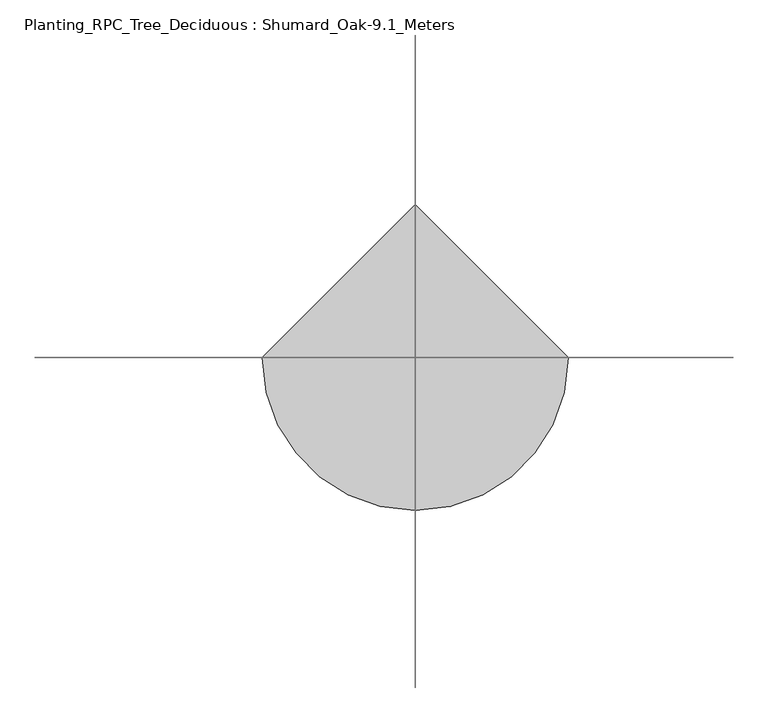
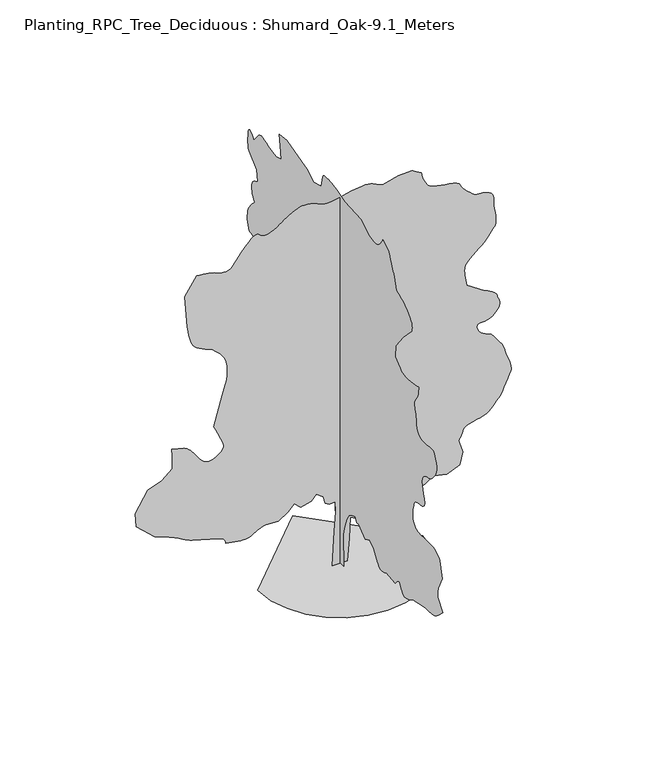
"""IFC4 building model written with IfcOpenShell, lengths in millimetres: geographic element geometry, Planting_RPC_Tree_Deciduous : Shumard_Oak-9.1_Meters."""

from ifc_helpers import new_model, si_unit, origin, place, context, project, spatial, triangles, source, transform, mapped, element, save


def planting_rpc_tree_deciduous_shumard_oak_9_1_meters_5c09a096(model_context):
    return source(origin(), model_context, "Body", "Tessellation", [
        triangles([(-0.0016876, 163.832478, 0.0085608), (-0.0016876, -150.8808976, 0.0085608), (-0.0016876, -123.5141451, 779.9515205), (-0.0016876, -178.2471505, 1012.5653744), (-0.0016876, -260.3461545, 1231.4963425), (-0.0016876, -356.128771, 1382.0105564), (-0.0016876, -465.5942914, 1450.4274559), (-0.0016876, -602.4255469, 1505.1588535), (-0.0016876, -657.1595243, 1382.0105564), (-0.0016876, -752.9421953, 1409.3763279), (-0.0016876, -862.4076794, 1299.9107712), (-0.0016876, -1012.9218206, 1204.1281002), (-0.0016876, -1190.8042042, 1286.2278854), (-0.0016876, -1355.0011585, 1176.7624014), (-0.0016876, -1464.4667152, 985.1971321), (-0.0016876, -1490.95536, 947.379019), (-0.0016876, -1518.0429508, 911.3556364), (-0.0016876, -1546.3262535, 878.9241858), (-0.0016876, -1576.4068302, 851.8769268), (-0.0016876, -1608.8788307, 832.0111336), (-0.0016876, -1644.3435265, 821.1189205), (-0.0016876, -1683.3976833, 821.0001051), (-0.0016876, -1720.8568794, 827.6608177), (-0.0016876, -1751.8549873, 835.7598146), (-0.0016876, -1777.4640347, 845.0544508), (-0.0016876, -1798.7681122, 855.307168), (-0.0016876, -1816.8392475, 866.2777193), (-0.0016876, -1832.7565899, 877.7285465), (-0.0016876, -1847.5972538, 889.4144611), (-0.0016876, -2203.3595501, 848.3658766), (-0.0016876, -2238.4248516, 888.8583904), (-0.0016876, -2272.772319, 925.9965305), (-0.0016876, -2305.6839729, 956.4360243), (-0.0016876, -2336.4419792, 976.8200272), (-0.0016876, -2364.326033, 983.8017958), (-0.0016876, -2388.6204803, 974.0293545), (-0.0016876, -2408.6076324, 944.1484749), (-0.0016876, -2428.6731228, 901.1838009), (-0.0016876, -2453.5264023, 856.783386), (-0.0016876, -2482.9269333, 814.5366188), (-0.0016876, -2516.6373756, 778.0354311), (-0.0016876, -2554.4225693, 750.8694294), (-0.0016876, -2596.0299133, 736.6279295), (-0.0016876, -2641.2265732, 738.9003925), (-0.0016876, -2686.5496788, 752.2242886), (-0.0016876, -2728.9909836, 768.4198116), (-0.0016876, -2769.0309814, 787.0116274), (-0.0016876, -2807.1751648, 807.5169165), (-0.0016876, -2843.8787384, 829.4580917), (-0.0016876, -2879.6216148, 852.3547319), (-0.0016876, -2914.8839973, 875.7316481), (-0.0016876, -3407.4725349, 971.5142464), (-0.0016876, -3468.9228539, 971.6356052), (-0.0016876, -3529.5136322, 972.4722548), (-0.0016876, -3588.4361984, 974.7472612), (-0.0016876, -3644.831012, 979.1734446), (-0.0016876, -3697.8891106, 986.4761965), (-0.0016876, -3746.7762428, 997.3658661), (-0.0016876, -3790.6081604, 1012.5653744), (-0.0016876, -3832.8471519, 1034.5444107), (-0.0016876, -3877.2604294, 1064.4252903), (-0.0016876, -3923.4427849, 1100.8885443), (-0.0016876, -3971.0916206, 1142.6146311), (-0.0016876, -4019.8017288, 1188.2915668), (-0.0016876, -4069.2199333, 1236.6025715), (-0.0016876, -4119.0171844, 1286.2278854), (-0.0016876, -3927.4367271, 1505.1588535), (-0.0016876, -3921.7492836, 1546.169577), (-0.0016876, -3916.9969574, 1586.9401989), (-0.0016876, -3914.1660255, 1627.2304722), (-0.0016876, -3914.1913147, 1666.8053822), (-0.0016876, -3918.0588112, 1705.4197403), (-0.0016876, -3926.7289215, 1742.8410027), (-0.0016876, -3941.1373444, 1778.8239807), (-0.0016876, -4091.6412392, 2093.5376198), (-0.0016876, -3995.8636551, 2476.6656876), (-0.0016876, -3988.3562645, 2487.2368446), (-0.0016876, -3966.0105354, 2514.3244354), (-0.0016876, -3929.0799408, 2550.9846977), (-0.0016876, -3877.7659218, 2590.2918915), (-0.0016876, -3812.3469498, 2625.276384), (-0.0016876, -3733.0506271, 2649.0121445), (-0.0016876, -3640.1039749, 2654.5478531), (-0.0016876, -3536.5408195, 2650.2507317), (-0.0016876, -3429.8685516, 2648.5572304), (-0.0016876, -3327.0132019, 2648.8098312), (-0.0016876, -3234.9513794, 2650.2507317), (-0.0016876, -3160.5841164, 2652.1465462), (-0.0016876, -3110.8880219, 2653.8400475), (-0.0016876, -3092.7638374, 2654.5478531), (-0.0016876, -3082.1470436, 2661.7773537), (-0.0016876, -3054.7966782, 2682.1514008), (-0.0016876, -3017.3603004, 2713.7991783), (-0.0016876, -2976.5872078, 2754.7490044), (-0.0016876, -2939.1758286, 2803.1562241), (-0.0016876, -2911.8254631, 2857.0482834), (-0.0016876, -2901.2086693, 2914.5302399), (-0.0016876, -2903.2056404, 2971.9613274), (-0.0016876, -2908.7919273, 3027.268998), (-0.0016876, -2917.3611717, 3080.7570122), (-0.0016876, -2928.331723, 3132.8291245), (-0.0016876, -2941.0969322, 3183.8143845), (-0.0016876, -2955.050441, 3234.0668404), (-0.0016876, -2969.6103081, 3283.9652481), (-0.0016876, -2981.5921349, 3298.5756935), (-0.0016876, -2994.9892822, 3312.8070923), (-0.0016876, -3011.2682304, 3326.3306854), (-0.0016876, -3031.8443001, 3338.7927155), (-0.0016876, -3058.1839714, 3349.7885559), (-0.0016876, -3091.7022743, 3359.0150276), (-0.0016876, -3133.8151108, 3366.0675041), (-0.0016876, -3184.7497925, 3370.3899147), (-0.0016876, -3239.7795731, 3375.4201309), (-0.0016876, -3292.8629608, 3386.8964653), (-0.0016876, -3338.0596207, 3410.5816475), (-0.0016876, -3369.3789299, 3452.2395699), (-0.0016876, -3380.8296844, 3517.5826744), (-0.0016876, -3366.4212616, 3612.3742722), (-0.0016876, -3336.9474792, 3719.5267433), (-0.0016876, -3309.8750038, 3817.8070816), (-0.0016876, -3289.2480652, 3906.78479), (-0.0016876, -3279.1370544, 3985.9296684), (-0.0016876, -3283.6617783, 4054.7862213), (-0.0016876, -3306.841468, 4112.8745361), (-0.0016876, -3352.7459335, 4159.6891205), (-0.0016876, -3409.0395905, 4192.4996178), (-0.0016876, -3461.2637283, 4212.5954842), (-0.0016876, -3510.3531738, 4225.7653198), (-0.0016876, -3557.3192024, 4237.7218575), (-0.0016876, -3603.071933, 4254.2534065), (-0.0016876, -3648.5973518, 4281.0479919), (-0.0016876, -3694.8305763, 4323.8936325), (-0.0016876, -3741.9483398, 4378.3926315), (-0.0016876, -3786.8921082, 4436.4809464), (-0.0016876, -3825.8705429, 4498.38647), (-0.0016876, -3855.0411461, 4564.3615128), (-0.0016876, -3870.5617104, 4634.6589661), (-0.0016876, -3868.5900284, 4709.5064323), (-0.0016876, -3845.3344711, 4789.131514), (-0.0016876, -3817.2507202, 4864.434185), (-0.0016876, -3798.2672859, 4925.8842133), (-0.0016876, -3780.7244614, 4972.9516891), (-0.0016876, -3756.9381226, 5005.1811172), (-0.0016876, -3719.2741425, 5022.091713), (-0.0016876, -3660.0733955, 5023.2038544), (-0.0016876, -3571.677047, 5008.0623367), (-0.0016876, -3466.799437, 4991.303476), (-0.0016876, -3365.9916367, 4987.9414719), (-0.0016876, -3273.3231651, 4998.0019043), (-0.0016876, -3192.8638321, 5021.4597748), (-0.0016876, -3128.6584488, 5058.3150833), (-0.0016876, -3084.8265312, 5108.592247), (-0.0016876, -3065.3878922, 5172.2418503), (-0.0016876, -3058.7400421, 5240.239444), (-0.0016876, -3050.651001, 5303.8884659), (-0.0016876, -3041.3489525, 5363.9737518), (-0.0016876, -3031.0859161, 5421.1778183), (-0.0016876, -3020.1153648, 5476.2325974), (-0.0016876, -3008.6646103, 5529.8467667), (-0.0016876, -2996.9862534, 5582.753421), (-0.0016876, -2985.6113663, 5620.8976044), (-0.0016876, -2976.4101837, 5659.1429443), (-0.0016876, -2971.4811241, 5697.6411758), (-0.0016876, -2973.0481796, 5736.4928741), (-0.0016876, -2983.2097687, 5775.8253571), (-0.0016876, -3004.1651756, 5815.7641983), (-0.0016876, -3038.0375267, 5856.4105545), (-0.0016876, -3074.2606064, 5906.2836731), (-0.0016876, -3101.6109718, 5968.8211349), (-0.0016876, -3121.3277916, 6036.6414139), (-0.0016876, -3134.573204, 6102.3129868), (-0.0016876, -3142.5610886, 6158.4049118), (-0.0016876, -3146.4538742, 6197.4839218), (-0.0016876, -3147.4904388, 6212.1702347), (-0.0016876, -3127.318705, 6207.6710907), (-0.0016876, -3073.1481743, 6196.2200455), (-0.0016876, -2994.5596573, 6180.9523727), (-0.0016876, -2901.1328018, 6164.9516052), (-0.0016876, -2802.4231293, 6151.3518539), (-0.0016876, -2708.0358673, 6143.2378143), (-0.0016876, -2627.525956, 6143.7685959), (-0.0016876, -2559.5539421, 6155.5986877), (-0.0016876, -2495.8918396, 6178.2223068), (-0.0016876, -2435.8141113, 6209.8197968), (-0.0016876, -2378.6078648, 6248.5959183), (-0.0016876, -2323.5554111, 6292.7560135), (-0.0016876, -2269.9412418, 6340.5060059), (-0.0016876, -2217.0422905, 6390.0506561), (-0.0016876, -2230.7251762, 6677.4081161), (-0.0016876, -2531.7483719, 7060.5440323), (-0.0016876, -2873.832724, 7416.3037125), (-0.0016876, -2879.1916992, 7460.4132294), (-0.0016876, -2881.4162727, 7505.3825775), (-0.0016876, -2877.4223305, 7552.0204285), (-0.0016876, -2864.1007599, 7601.1604523), (-0.0016876, -2838.3427391, 7653.6624802), (-0.0016876, -2797.0135757, 7710.3351837), (-0.0016876, -2737.0041573, 7772.0633926), (-0.0016876, -2666.6308365, 7831.3905853), (-0.0016876, -2596.257225, 7881.3648605), (-0.0016876, -2525.8914619, 7923.5785629), (-0.0016876, -2455.5207573, 7959.5490417), (-0.0016876, -2385.149762, 7990.8680603), (-0.0016876, -2314.778912, 8019.0779663), (-0.0016876, -2244.408062, 8045.7211075), (-0.0016876, -2223.8648392, 8115.8918243), (-0.0016876, -2203.2002575, 8184.8754044), (-0.0016876, -2182.2954288, 8251.4568054), (-0.0016876, -2161.0317558, 8314.4488907), (-0.0016876, -2139.2903503, 8372.6383621), (-0.0016876, -2116.9523243, 8424.8625), (-0.0016876, -2093.8939934, 8469.9074249), (-0.0016876, -2068.3230251, 8519.0224503), (-0.0016876, -2040.1180607, 8579.6135193), (-0.0016876, -2011.6754654, 8644.7543106), (-0.0016876, -1985.3865177, 8707.4935043), (-0.0016876, -1963.6451122, 8760.9309402), (-0.0016876, -1948.8448528, 8798.0641388), (-0.0016876, -1943.3773087, 8811.991777), (-0.0016876, -1710.7634548, 8948.8206345), (-0.0016876, -1698.8374386, 8925.2366089), (-0.0016876, -1685.7130943, 8900.944487), (-0.0016876, -1670.1925301, 8875.2117554), (-0.0016876, -1651.0851208, 8847.3303177), (-0.0016876, -1627.1900677, 8816.5670792), (-0.0016876, -1597.3090427, 8782.2145248), (-0.0016876, -1560.2493862, 8743.5651398), (-0.0016876, -1515.6087971, 8710.0974152), (-0.0016876, -1464.5071198, 8690.2794388), (-0.0016876, -1408.0188526, 8681.811351), (-0.0016876, -1347.2231449, 8682.4432892), (-0.0016876, -1283.194495, 8689.9003922), (-0.0016876, -1217.0121975, 8701.9072174), (-0.0016876, -1149.7530762, 8716.1894852), (-0.0016876, -848.7223228, 8921.4449799), (-0.0016876, -191.9302724, 8962.4959625), (-0.0016876, -107.0787747, 8985.8276779), (-0.0016876, -23.3040577, 9008.451297), (-0.0016876, 58.316385, 9029.633725), (-0.0016876, 136.7053639, 9048.6680283), (-0.0016876, 210.7859892, 9064.8205307), (-0.0016876, 279.4814509, 9077.3837173), (-0.0016876, 341.7128632, 9085.6494919), (-0.0016876, 403.0696558, 9091.9438751), (-0.0016876, 467.2954957, 9097.530162), (-0.0016876, 530.565798, 9100.0073364), (-0.0016876, 589.0485291, 9096.9738007), (-0.0016876, 638.9140537, 9086.0541183), (-0.0016876, 676.3327726, 9064.8205307), (-0.0016876, 697.4776302, 9030.9231812), (-0.0016876, 765.8919863, 8757.2404678), (-0.0016876, 1066.9227396, 8675.163501), (-0.0016876, 1340.5877941, 8839.3424332), (-0.0016876, 1682.6672047, 8921.4449799), (-0.0016876, 2134.2120266, 9058.2738373), (-0.0016876, 2435.2427799, 9017.2222733), (-0.0016876, 2407.8745377, 8757.2404678), (-0.0016876, 2353.14314, 8456.2320969), (-0.0016876, 2572.0665504, 8387.8054596), (-0.0016876, 2790.9973732, 8428.8564423), (-0.0016876, 2875.6529617, 8460.6556641), (-0.0016876, 2958.0331078, 8489.7004028), (-0.0016876, 3035.8635315, 8513.2338501), (-0.0016876, 3106.8687904, 8528.5015228), (-0.0016876, 3168.7996033, 8532.7733551), (-0.0016876, 3219.3296585, 8523.2692841), (-0.0016876, 3256.2352547, 8497.2580811), (-0.0016876, 3461.49104, 8250.9766022), (-0.0016876, 3508.1286003, 8305.5005997), (-0.0016876, 3553.0726593, 8352.972702), (-0.0016876, 3594.6797127, 8386.33927), (-0.0016876, 3631.2568405, 8398.4978302), (-0.0016876, 3661.1352493, 8382.4209045), (-0.0016876, 3682.6464363, 8331.0315994), (-0.0016876, 3694.0974815, 8237.2762756), (-0.0016876, 3697.5603516, 8133.1570496), (-0.0016876, 3696.7263908, 8052.7480042), (-0.0016876, 3692.302533, 7992.0563599), (-0.0016876, 3684.9974556, 7947.1881683), (-0.0016876, 3675.5433815, 7914.1500687), (-0.0016876, 3664.6486977, 7889.0236954), (-0.0016876, 3653.0462082, 7867.8412674), (-0.0016876, 3338.3378014, 7607.8588806), (-0.0016876, 3310.9618561, 7320.5264191), (-0.0016876, 3354.7176155, 7302.679834), (-0.0016876, 3397.1845001, 7283.418219), (-0.0016876, 3436.9968956, 7261.2748032), (-0.0016876, 3472.8409286, 7234.8345566), (-0.0016876, 3503.4521416, 7202.6307083), (-0.0016876, 3527.4660828, 7163.2476471), (-0.0016876, 3543.5680069, 7115.270343), (-0.0016876, 3549.7359444, 7062.4904251), (-0.0016876, 3545.8178696, 7009.7105072), (-0.0016876, 3533.5328636, 6956.9300079), (-0.0016876, 3514.5491386, 6904.15009), (-0.0016876, 3490.5351974, 6851.3701721), (-0.0016876, 3463.1595428, 6798.5902542), (-0.0016876, 3434.1153854, 6745.8103363), (-0.0016876, 3477.9217232, 6701.8269745), (-0.0016876, 3520.6412086, 6657.6918777), (-0.0016876, 3561.2119881, 6613.3294693), (-0.0016876, 3598.5472092, 6568.6130127), (-0.0016876, 3631.5853088, 6523.4157715), (-0.0016876, 3659.2394348, 6477.6127533), (-0.0016876, 3680.4221535, 6431.1016388), (-0.0016876, 3695.6139587, 6385.7782425), (-0.0016876, 3706.5089333, 6343.3372284), (-0.0016876, 3713.8140106, 6303.2972305), (-0.0016876, 3718.2375778, 6265.1530472), (-0.0016876, 3720.5127296, 6228.4494736), (-0.0016876, 3721.346981, 6192.7068878), (-0.0016876, 3721.4731361, 6157.443924), (-0.0016876, 3639.3708801, 5924.8377731), (-0.0016876, 3601.2772751, 5918.7207047), (-0.0016876, 3563.2848267, 5911.1880249), (-0.0016876, 3525.5449791, 5900.7735443), (-0.0016876, 3488.1591797, 5886.0616516), (-0.0016876, 3451.2788727, 5865.5867386), (-0.0016876, 3414.9546364, 5837.9326126), (-0.0016876, 3379.388784, 5801.6842438), (-0.0016876, 3346.9826225, 5758.63629), (-0.0016876, 3319.6319664, 5711.9990204), (-0.0016876, 3296.4522766, 5662.378212), (-0.0016876, 3276.6093018, 5610.3569687), (-0.0016876, 3259.2940796, 5556.5404861), (-0.0016876, 3243.6723587, 5501.535704), (-0.0016876, 3228.8596001, 5445.9245636), (-0.0016876, 3196.8324852, 5401.9162033), (-0.0016876, 3166.1201157, 5357.806105), (-0.0016876, 3138.0363647, 5313.4436966), (-0.0016876, 3113.8959778, 5268.7022415), (-0.0016876, 3095.0389893, 5223.5050003), (-0.0016876, 3082.7286942, 5177.7269806), (-0.0016876, 3078.3554146, 5131.2158661), (-0.0016876, 3092.0307426, 4761.7558594), (-0.0016876, 3124.0578575, 4758.5203011), (-0.0016876, 3154.7955162, 4753.4897942), (-0.0016876, 3182.8792671, 4744.8955513), (-0.0016876, 3206.9943649, 4730.8914642), (-0.0016876, 3225.8766426, 4709.7087456), (-0.0016876, 3238.1616486, 4679.5271576), (-0.0016876, 3242.5602173, 4638.60233), (-0.0016876, 3241.3466286, 4591.3075424), (-0.0016876, 3238.0102043, 4543.2543709), (-0.0016876, 3232.8535423, 4494.6451286), (-0.0016876, 3226.2812691, 4445.530394), (-0.0016876, 3218.6221436, 4396.0619019), (-0.0016876, 3210.2299232, 4346.3658073), (-0.0016876, 3201.5089439, 4296.5179779), (-0.0016876, 3187.8083267, 4022.8605537), (-0.0016876, 3447.7904228, 4036.5608803), (-0.0016876, 3735.1484642, 4091.2874817), (-0.0016876, 3796.2956039, 4070.5849663), (-0.0016876, 3854.9399895, 4048.7955986), (-0.0016876, 3908.5541588, 4024.8575249), (-0.0016876, 3954.6356483, 3997.6838928), (-0.0016876, 3990.6564148, 3966.2128487), (-0.0016876, 4014.1142853, 3929.3578308), (-0.0016876, 4022.4812164, 3886.0316963), (-0.0016876, 4020.1051987, 3831.1536507), (-0.0016876, 4013.4064796, 3761.8924713), (-0.0016876, 4003.0931557, 3680.6747543), (-0.0016876, 3989.9486092, 3589.8770988), (-0.0016876, 3974.6303581, 3491.9002304), (-0.0016876, 3957.8712067, 3389.1207481), (-0.0016876, 3940.4042496, 3283.9652481), (-0.0016876, 3817.2507202, 2955.5812225), (-0.0016876, 3749.986512, 2917.841375), (-0.0016876, 3683.8094467, 2882.3766792), (-0.0016876, 3619.7807968, 2851.4619965), (-0.0016876, 3558.9877052, 2827.3721878), (-0.0016876, 3502.4917351, 2812.3571159), (-0.0016876, 3451.3800293, 2808.742511), (-0.0016876, 3406.7394402, 2818.7526558), (-0.0016876, 3023.6291039, 2982.9318787), (-0.0016876, 2640.4934784, 2859.8036385), (-0.0016876, 2366.8258804, 2668.2231812), (-0.0016876, 2093.1635147, 2257.7345741), (-0.0016876, 2066.6748699, 2216.9235477), (-0.0016876, 2039.5871338, 2177.5508057), (-0.0016876, 2011.3013603, 2141.0496906), (-0.0016876, 1981.2232544, 2108.8558708), (-0.0016876, 1948.7513992, 2082.4077759), (-0.0016876, 1913.2867035, 2063.1384579), (-0.0016876, 1874.2324013, 2052.4864918), (-0.0016876, 1835.2565826, 2048.9374352), (-0.0016876, 1798.6745132, 2049.2154705), (-0.0016876, 1761.8523422, 2052.1275021), (-0.0016876, 1722.1611603, 2056.4752018), (-0.0016876, 1676.9620296, 2061.0631485), (-0.0016876, 1623.6258957, 2064.6930141), (-0.0016876, 1559.5187622, 2066.1692322), (-0.0016876, 1490.7430183, 2060.9848103), (-0.0016876, 1424.841227, 2046.4627316), (-0.0016876, 1361.330714, 2024.1626392), (-0.0016876, 1299.7363632, 1995.6392349), (-0.0016876, 1239.5776806, 1962.4494003), (-0.0016876, 1180.377079, 1926.1479824), (-0.0016876, 1121.6567533, 1888.2893921), (-0.0016876, 1039.5570408, 1655.6755383), (-0.0016876, 806.9431143, 1395.6934422), (-0.0016876, 774.8277054, 1360.9060307), (-0.0016876, 737.6895653, 1326.8392147), (-0.0016876, 696.3603292, 1293.368874), (-0.0016876, 651.6793356, 1260.3788818), (-0.0016876, 604.4856683, 1227.745118), (-0.0016876, 555.6186293, 1195.3542171), (-0.0016876, 505.912361, 1163.0795156), (-0.0016876, 423.8126121, 1450.4274559), (-0.0016876, 286.9813747, 1641.9901817), (-0.0016876, 232.2486145, 1518.8417393), (-0.0016876, 191.1987401, 1327.2790134), (-0.0016876, 177.5158725, 985.1971321), (-0.0016876, 150.1493652, 506.2865024), (169.54274, 0.0004339, 0.0216695), (-186.21952, 0.0004339, 0.0216695), (-131.4872685, 0.0003851, 821.0127497), (-104.1207703, 0.0003564, 1299.9234158), (-117.8038922, 0.0003417, 1546.2226261), (-254.6358926, 0.0003425, 1532.5397404), (-350.4185454, 0.0003394, 1587.2712833), (-391.46713, 0.0003287, 1765.1537395), (-555.6666641, 0.0003221, 1874.6191509), (-665.1321482, 0.0003294, 1751.4708538), (-911.4288877, 0.0003336, 1683.0539543), (-1061.9455725, 0.0003255, 1819.8851372), (-1212.4597137, 0.0003344, 1669.3710686), (-1431.3906818, 0.0003425, 1532.5397404), (-1759.7872066, 0.0003417, 1546.2226261), (-1923.984161, 0.0003459, 1477.8057266), (-1959.2517757, 0.0003475, 1451.5952625), (-1994.9946522, 0.000349, 1426.464093), (-2031.6954643, 0.0003503, 1403.4865711), (-2069.8345608, 0.0003514, 1383.7395206), (-2109.8872032, 0.0003524, 1368.2999107), (-2152.3311241, 0.000353, 1358.2468906), (-2197.6492882, 0.0003532, 1354.6574295), (-2248.1541996, 0.0003532, 1356.2523903), (-2305.1203445, 0.000353, 1360.7215942), (-2367.4704632, 0.0003524, 1367.5819313), (-2434.1331093, 0.0003519, 1376.3584305), (-2504.0236107, 0.0003514, 1386.5705978), (-2576.0604927, 0.0003506, 1397.7408463), (-2649.1891685, 0.0003501, 1409.3914433), (-2652.5761711, 0.0003483, 1438.632827), (-2658.7188194, 0.0003464, 1467.3938622), (-2670.3718872, 0.0003449, 1495.1994324), (-2690.2907295, 0.0003433, 1521.5691891), (-2721.2054123, 0.0003417, 1546.022929), (-2765.8712906, 0.0003404, 1568.0829197), (-2827.0690086, 0.0003394, 1587.2712833), (-3429.1354568, 0.0003287, 1765.1537395), (-3478.2754807, 0.0003279, 1780.7500259), (-3530.7775085, 0.0003266, 1802.8124874), (-3584.9477486, 0.000325, 1829.4200203), (-3639.1182793, 0.0003232, 1858.6612587), (-3691.6203072, 0.0003213, 1888.6206219), (-3740.7856201, 0.0003198, 1917.3841278), (-3784.895137, 0.0003182, 1943.0335796), (-3832.3416595, 0.0003166, 1967.6870167), (-3891.2642258, 0.0003151, 1994.4965721), (-3959.741732, 0.0003132, 2023.09846), (-4035.903653, 0.0003117, 2053.1386322), (-4117.8038864, 0.0003098, 2084.2556282), (-4203.5207474, 0.0003078, 2116.0878422), (-4291.1842918, 0.0003059, 2148.281662), (-4715.3456108, 0.0002822, 2545.0952316), (-4742.7215561, 0.0002626, 2873.4789665), (-4455.3635147, 0.0002349, 3338.716848), (-4126.9797798, 0.0002276, 3461.8703773), (-3880.6727211, 0.0002153, 3667.125872), (-3880.6727211, 0.0001967, 3981.8345695), (-3894.3733383, 0.0001868, 4146.0390816), (-3607.0152969, 0.000191, 4077.6121536), (-3574.6597137, 0.0001923, 4056.7579033), (-3541.7227707, 0.0001936, 4033.8563942), (-3507.5725296, 0.0001952, 4006.8847847), (-3471.6276306, 0.000197, 3973.8213959), (-3433.281134, 0.0001996, 3932.5933891), (-3391.9519707, 0.0002027, 3881.2290825), (-3347.0332008, 0.0002064, 3817.6300575), (-3301.507782, 0.0002103, 3750.8207634), (-3257.6761551, 0.000214, 3691.8981972), (-3213.8445282, 0.0002168, 3642.0756569), (-3168.3191093, 0.0002192, 3602.5411514), (-3119.4572662, 0.000221, 3574.4829803), (-3065.5649162, 0.0002218, 3559.1391495), (-3004.9488487, 0.0002218, 3557.6479614), (-2938.6956253, 0.000221, 3572.8144775), (-2871.9621986, 0.0002192, 3603.5271378), (-2809.2732925, 0.0002166, 3645.2606369), (-2755.2294983, 0.0002137, 3693.4402542), (-2714.3299599, 0.0002108, 3743.5406845), (-2691.1502701, 0.000208, 3791.0124962), (-2690.2401512, 0.0002056, 3831.3053856), (-2706.3673645, 0.000203, 3874.8841209), (-2730.3813057, 0.0001996, 3933.5287971), (-2760.9675201, 0.0001952, 4004.7363693), (-2796.8365517, 0.0001905, 4085.9790848), (-2836.6492378, 0.0001852, 4174.7800598), (-2879.0905426, 0.0001795, 4268.6112511), (-2922.8465927, 0.0001737, 4364.970195), (-2731.2914246, 0.0001322, 5062.7892288), (-2705.078199, 0.0001275, 5141.7820816), (-2679.9521164, 0.0001228, 5219.6883728), (-2656.9747398, 0.0001183, 5295.4459579), (-2637.2326309, 0.0001139, 5367.9932739), (-2621.7879341, 0.00011, 5436.1925995), (-2611.7275017, 0.0001061, 5499.0335312), (-2608.1378952, 0.0001029, 5555.4027649), (-2609.0733032, 9.95e-05, 5610.407547), (-2612.1318375, 9.61e-05, 5668.7737518), (-2617.8445702, 9.25e-05, 5728.8084595), (-2626.6664154, 8.88e-05, 5788.8431671), (-2639.052578, 8.54e-05, 5847.2099533), (-2655.5338394, 8.2e-05, 5902.2141541), (-2676.5648232, 7.92e-05, 5952.2134277), (-2703.6123001, 7.63e-05, 5998.7245422), (-2737.130603, 7.37e-05, 6044.5281418), (-2776.0078812, 7.11e-05, 6089.7248016), (-2819.2075699, 6.82e-05, 6134.4412582), (-2865.6428169, 6.56e-05, 6178.8036667), (-2914.2520592, 6.3e-05, 6222.913765), (-2963.8975754, 6.03e-05, 6266.9221252), (-3042.7389839, 5.85e-05, 6299.2271301), (-3119.5331337, 5.64e-05, 6331.9111816), (-3192.2571831, 5.46e-05, 6365.3033295), (-3258.864164, 5.25e-05, 6399.7570404), (-3317.3571053, 5.04e-05, 6435.6769409), (-3365.6628777, 4.81e-05, 6473.3659195), (-3401.7598022, 4.57e-05, 6513.229184), (-3430.1720215, 4.26e-05, 6566.36315), (-3456.4355347, 3.84e-05, 6638.4046829), (-3480.0451401, 3.34e-05, 6721.4676361), (-3500.5453423, 2.82e-05, 6807.6397018), (-3517.4562286, 2.33e-05, 6889.0085724), (-3530.2973053, 1.93e-05, 6957.713681), (-3538.6136581, 1.65e-05, 7005.8177216), (-3593.3399689, -2.93e-05, 7772.0633926), (-3319.6572556, -5.46e-05, 8196.2502914), (-3246.5538689, -5.41e-05, 8187.3525787), (-3174.512336, -5.36e-05, 8177.8729248), (-3104.6192184, -5.28e-05, 8167.1805542), (-3037.9363701, -5.2e-05, 8154.6935257), (-2975.6012215, -5.12e-05, 8139.8048996), (-2918.6250481, -5.02e-05, 8121.933316), (-2868.1199913, -4.89e-05, 8100.4724167), (-2816.7809738, -4.75e-05, 8079.7196136), (-2758.970549, -4.68e-05, 8065.2100342), (-2698.3039032, -4.62e-05, 8058.1069794), (-2638.3447723, -4.65e-05, 8059.6237473), (-2582.6830536, -4.7e-05, 8070.948056), (-2534.9333519, -4.83e-05, 8093.2937851), (-2498.6774254, -5.04e-05, 8127.8230728), (-2279.7464573, -6.77e-05, 8415.1811142), (-2221.2636898, -7.16e-05, 8482.1165634), (-2163.7390034, -7.55e-05, 8546.0696365), (-2108.130479, -7.89e-05, 8604.0317963), (-2055.3908203, -8.18e-05, 8653.0200851), (-2006.4833405, -8.41e-05, 8690.0521271), (-1962.3608883, -8.54e-05, 8712.0943863), (-1923.984161, -8.57e-05, 8716.2144836), (-1893.107412, -8.49e-05, 8705.9261581), (-1867.9762424, -8.39e-05, 8689.1672974), (-1844.2807411, -8.28e-05, 8669.5266357), (-1817.7112873, -8.18e-05, 8650.6184875), (-1783.9629112, -8.07e-05, 8636.0333313), (-1738.7232307, -8.05e-05, 8629.334903), (-1677.6874214, -8.07e-05, 8634.111937), (-1604.7635296, -8.2e-05, 8654.8653214), (-1529.9260918, -8.39e-05, 8689.4957657), (-1457.9576649, -8.65e-05, 8731.7600464), (-1393.6509796, -8.91e-05, 8775.491098), (-1341.7910637, -9.14e-05, 8814.4189545), (-1307.1629448, -9.3e-05, 8842.3509705), (-1294.5568829, -9.38e-05, 8853.0433411), (-1279.1197437, -9.43e-05, 8862.9270401), (-1238.0710865, -9.59e-05, 8888.6341919), (-1179.3078856, -9.8e-05, 8924.1244675), (-1110.7316935, -0.0001003, 8963.456369), (-1040.242028, -0.0001024, 9000.6401459), (-975.7356457, -0.0001042, 9029.6843033), (-925.1117735, -0.000105, 9044.5985092), (-877.0814203, -0.0001053, 9047.909935), (-817.3222046, -0.0001053, 9045.9635422), (-749.1858839, -0.0001048, 9038.5064392), (-676.0218178, -0.000104, 9025.3113144), (-601.18438, -0.0001029, 9006.1252762), (-528.0203502, -0.0001014, 8980.6960144), (-459.8840295, -9.95e-05, 8948.8206345), (-387.3999364, -9.8e-05, 8922.8100128), (-300.5530209, -9.74e-05, 8913.3309402), (-201.738322, -9.74e-05, 8917.6027725), (-93.349898, -9.85e-05, 8932.8704453), (22.2192106, -9.98e-05, 8956.4038925), (142.5753726, -0.0001016, 8985.4480499), (265.3258833, -0.0001035, 9017.2478531), (350.0570486, -0.0001042, 9028.7238968), (432.9935197, -0.0001048, 9038.7843292), (512.3405296, -0.0001053, 9045.9635422), (586.3008408, -0.0001053, 9048.8447617), (653.0822296, -0.0001053, 9045.9635422), (710.8874949, -0.0001045, 9035.9025284), (757.9193624, -0.0001035, 9017.2478531), (797.3729862, -0.0001022, 8995.3823273), (833.9549829, -0.0001011, 8976.3986023), (868.1432304, -0.0001001, 8959.7914764), (900.4153885, -9.93e-05, 8945.1051636), (931.2542765, -9.85e-05, 8931.8844589), (961.1326853, -9.77e-05, 8919.5741638), (990.533289, -9.69e-05, 8907.7696518), (1346.2955853, -0.0001027, 9003.5469452), (1661.0092243, -0.0001035, 9017.2478531), (1879.9426632, -9.61e-05, 8894.0943237), (1883.0923256, -9.43e-05, 8861.7137421), (1887.5613842, -9.22e-05, 8828.4733292), (1894.6619682, -9.01e-05, 8793.5644135), (1905.7134739, -8.8e-05, 8756.1533249), (1922.0277397, -8.54e-05, 8715.3802322), (1944.9269234, -8.28e-05, 8670.4108841), (1975.7228634, -7.99e-05, 8620.4366089), (2006.6805668, -7.71e-05, 8574.684169), (2032.3702778, -7.52e-05, 8540.8873947), (2057.5824017, -7.37e-05, 8515.963916), (2087.1042915, -7.24e-05, 8496.7528793), (2125.718795, -7.16e-05, 8480.1957504), (2178.2182068, -7.05e-05, 8463.1839981), (2249.3878452, -6.92e-05, 8442.5567688), (2337.1118511, -6.82e-05, 8422.6887955), (2431.7772938, -6.71e-05, 8407.5978561), (2526.9204689, -6.64e-05, 8393.7202148), (2616.0752014, -6.53e-05, 8377.4415573), (2692.7931931, -6.4e-05, 8355.171405), (2750.6036179, -6.22e-05, 8323.3471848), (2783.0350685, -5.96e-05, 8278.3522568), (2806.9984314, -5.64e-05, 8225.9769653), (2842.4631271, -5.33e-05, 8174.3091888), (2887.5080521, -5.02e-05, 8123.2477707), (2940.2123932, -4.73e-05, 8072.6671371), (2998.6547562, -4.42e-05, 8022.4399704), (3060.9137466, -4.13e-05, 7972.4656952), (3125.1194206, -3.81e-05, 7922.5925766), (3215.3865852, -3.76e-05, 7913.3408157), (3301.9629868, -3.71e-05, 7901.3339905), (3381.1075745, -3.61e-05, 7883.8164551), (3449.1301666, -3.45e-05, 7858.0331451), (3502.2894218, -3.21e-05, 7821.2539948), (3536.9201569, -2.93e-05, 7770.7239395), (3549.2810303, -2.53e-05, 7703.6617538), (3550.0897018, -2.12e-05, 7633.7939255), (3552.3142754, -1.75e-05, 7575.4527191), (3555.7521469, -1.46e-05, 7526.6411636), (3560.150425, -1.23e-05, 7485.5146042), (3565.2565086, -1.02e-05, 7450.1504837), (3570.8427956, -8.1e-06, 7418.5785736), (3576.6566849, -6.5e-06, 7388.9530563), (3588.1077301, -2.4e-06, 7318.807338), (3597.8899818, 1.8e-06, 7250.1272278), (3604.3105202, 5.7e-06, 7184.30392), (3605.7008423, 9.4e-06, 7122.7780243), (3600.3927361, 1.28e-05, 7067.0151489), (3586.717408, 1.57e-05, 7018.4309052), (3562.9813568, 1.8e-05, 6978.4414856), (3532.6986122, 2.04e-05, 6940.1205688), (3500.0145607, 2.3e-05, 6896.2633621), (3464.2463951, 2.59e-05, 6848.1093246), (3424.6360222, 2.87e-05, 6796.8461746), (3380.4756363, 3.19e-05, 6743.6866287), (3331.0324333, 3.53e-05, 6689.7945694), (3275.6233154, 3.84e-05, 6636.3571335), (3211.2914864, 4.18e-05, 6581.2767746), (3139.5025543, 4.52e-05, 6522.3542084), (3066.298011, 4.89e-05, 6460.8027328), (2997.6434807, 5.25e-05, 6397.8106476), (2939.5298767, 5.64e-05, 6334.5906693), (2897.9225327, 6.01e-05, 6272.3066803), (2878.8126526, 6.37e-05, 6212.1958145), (2875.7538277, 6.71e-05, 6152.7424667), (2877.7002205, 7.08e-05, 6091.8735077), (2883.8428688, 7.45e-05, 6029.7912506), (2893.3472305, 7.84e-05, 5966.7735855), (2905.3543465, 8.2e-05, 5903.0228256), (2919.0296745, 8.6e-05, 5838.7924438), (2933.5389633, 8.99e-05, 5774.3335876), (3344.0505341, 0.0001061, 5500.6508743), (3359.950145, 0.0001066, 5493.5733994), (3401.0014183, 0.0001076, 5474.0083145), (3457.1433403, 0.0001095, 5444.6606873), (3518.2901894, 0.0001116, 5408.1088486), (3574.432402, 0.0001142, 5367.0328674), (3615.4833847, 0.0001165, 5324.0099121), (3631.3832863, 0.0001191, 5281.7200516), (3639.9269508, 0.0001215, 5241.8062088), (3659.4667465, 0.0001238, 5201.8673676), (3680.9276459, 0.0001264, 5158.5921021), (3695.209623, 0.0001296, 5108.592247), (3693.2126518, 0.000133, 5048.5575394), (3665.8619957, 0.0001374, 4975.1253937), (3604.0326302, 0.0001429, 4884.9093887), (3518.7453941, 0.0001473, 4808.1658173), (3431.0565605, 0.0001497, 4768.504866), (3346.9573334, 0.0001507, 4752.8072777), (3272.4383354, 0.000151, 4747.8529289), (3213.4654816, 0.0001515, 4740.4969826), (3176.0541023, 0.0001528, 4717.6207626), (3166.170694, 0.000156, 4665.9782753), (3180.4020927, 0.0001596, 4601.5955772), (3209.7241402, 0.0001628, 4547.9814079), (3251.6096649, 0.0001656, 4503.3408188), (3303.5553314, 0.0001677, 4465.8791519), (3363.0339684, 0.0001696, 4433.8014587), (3427.5431122, 0.0001714, 4405.3386612), (3494.5544289, 0.000173, 4378.6455231), (3561.5407471, 0.0001779, 4293.9143578), (3625.7714195, 0.0001829, 4210.9778503), (3684.4919632, 0.0001876, 4131.6309494), (3734.9464417, 0.000192, 4057.6680222), (3774.4050797, 0.0001962, 3990.8840172), (3800.087233, 0.0001996, 3933.0735924), (3809.2631264, 0.0002022, 3886.0569855), (3820.4357002, 0.0002056, 3829.7886177), (3848.3677162, 0.0002106, 3749.379863), (3884.6666634, 0.0002161, 3654.108062), (3920.9656105, 0.0002221, 3553.3505493), (3948.8976265, 0.0002278, 3456.4102455), (3960.070491, 0.000233, 3372.6397774), (3946.0916931, 0.0002367, 3311.3409027), (3913.6602425, 0.0002401, 3250.8259918), (3875.9712639, 0.0002451, 3169.026915), (3834.4397873, 0.0002508, 3074.7408096), (3790.5322929, 0.0002566, 2976.890387), (3745.6388123, 0.000262, 2884.2977829), (3701.2511147, 0.0002667, 2805.8357117), (3658.7589409, 0.0002701, 2750.3507263), (3617.5562233, 0.0002727, 2706.3926537), (3575.3928085, 0.0002756, 2658.3394821), (3531.3082901, 0.0002785, 2608.87099), (3484.3422615, 0.0002814, 2560.6157959), (3433.559024, 0.000284, 2516.1722878), (3377.9984619, 0.0002863, 2478.1949547), (3316.6745888, 0.0002879, 2449.3124153), (3244.2031403, 0.0002892, 2427.889595), (3160.685273, 0.0002905, 2408.6227478), (3073.6033791, 0.0002916, 2388.6355957), (2990.3634018, 0.0002929, 2365.0589825), (2918.3471581, 0.0002947, 2335.0214264), (2865.0108788, 0.000297, 2295.6462135), (2837.7613792, 0.0003002, 2244.064333), (2823.176223, 0.0003033, 2192.3637096), (2804.7232796, 0.0003057, 2152.1517746), (2785.3352188, 0.0003075, 2119.8390667), (2767.8682617, 0.0003093, 2091.8337994), (2755.17892, 0.0003109, 2064.5465115), (2750.1487038, 0.0003127, 2034.3874512), (2755.6591232, 0.0003148, 1997.7675934), (2837.7613792, 0.0003305, 1737.7879681), (2769.3597404, 0.0003483, 1436.7572147), (2468.3188133, 0.0003556, 1313.6087723), (2167.28806, 0.0003516, 1382.023201), (1866.2573067, 0.0003629, 1190.4604025), (1647.3263386, 0.0003556, 1313.6087723), (1332.6126995, 0.0003475, 1450.4401005), (1311.9885223, 0.0003483, 1438.4305138), (1290.7652538, 0.000349, 1424.747628), (1268.3464188, 0.0003501, 1407.7155281), (1244.1303097, 0.0003514, 1385.6530666), (1217.5228495, 0.000353, 1356.8920315), (1187.9225487, 0.0003553, 1319.7512753), (1154.7327868, 0.0003582, 1272.5576443), (1119.9454479, 0.0003611, 1222.9702641), (1085.8785593, 0.0003637, 1179.1283907), (1052.4082912, 0.000366, 1140.0741611), (1019.415683, 0.0003681, 1104.849567), (986.7845352, 0.0003699, 1072.4965273), (954.391091, 0.0003718, 1042.0595043), (922.1189329, 0.0003736, 1012.578019), (963.1675175, 0.0003908, 725.2301514), (939.5909042, 0.0003914, 716.5724676), (915.2964569, 0.0003916, 708.7540495), (889.5661234, 0.0003921, 702.6115465), (861.6796715, 0.0003924, 698.9816809), (830.9242086, 0.0003924, 698.7036455), (796.5767412, 0.0003921, 702.6115465), (757.9193624, 0.0003916, 711.5472656), (717.6670229, 0.0003906, 726.4661951), (678.8529676, 0.0003895, 747.1308495), (641.2345516, 0.000388, 772.5830023), (604.5716369, 0.0003861, 801.8648632), (568.629136, 0.0003843, 834.0182058), (533.1643676, 0.0003822, 868.0850945), (497.9397735, 0.0003801, 903.1125349), (237.9583677, 0.000372, 1039.9437904), (210.5928688, 0.0004021, 533.6648821), (-1907.5334209, 0.0, 0.0), (-1857.1042316, -437.0809155, 0.0), (-1713.4833469, -838.4696056, 0.0), (-1488.1696289, -1192.6646284, 0.0), (-1192.6646284, -1488.1696289, 0.0), (-838.4696056, -1713.4833469, 0.0), (-437.0809155, -1857.1042316, 0.0), (8.34e-05, -1907.5334209, 0.0), (437.0809155, -1857.1042316, 0.0), (838.4696056, -1713.4833469, 0.0), (1192.6646284, -1488.1696289, 0.0), (1488.1696289, -1192.6646284, 0.0), (1713.4833469, -838.4696056, 0.0), (1857.1042316, -437.0809155, 0.0), (1907.5334209, 0.0001667, 0.0), (-0.0002501, 1907.5334209, 0.0)], [[407, 408, 409], [173, 174, 175], [406, 407, 409], [219, 220, 221], [1, 2, 3], [414, 1, 3], [413, 414, 3], [413, 3, 4], [412, 413, 4], [412, 4, 5], [255, 256, 257], [219, 221, 222], [65, 66, 67], [405, 406, 409], [8, 9, 10], [219, 222, 223], [404, 405, 409], [64, 65, 67], [412, 5, 6], [411, 412, 6], [403, 404, 409], [219, 223, 224], [172, 173, 175], [172, 175, 176], [171, 172, 176], [171, 176, 177], [170, 171, 177], [254, 255, 257], [254, 257, 258], [402, 403, 409], [63, 64, 67], [218, 219, 224], [401, 402, 409], [218, 224, 225], [217, 218, 225], [312, 313, 314], [216, 217, 225], [216, 225, 226], [170, 177, 178], [169, 170, 178], [168, 169, 178], [167, 168, 178], [167, 178, 179], [166, 167, 179], [166, 179, 180], [165, 166, 180], [11, 12, 13], [216, 226, 227], [215, 216, 227], [400, 401, 409], [400, 409, 410], [399, 400, 410], [29, 30, 31], [62, 63, 67], [214, 215, 227], [214, 227, 228], [410, 411, 6], [410, 6, 7], [165, 180, 181], [164, 165, 181], [312, 314, 315], [61, 62, 67], [213, 214, 228], [60, 61, 67], [59, 60, 67], [58, 59, 67], [57, 58, 67], [56, 57, 67], [55, 56, 67], [54, 55, 67], [53, 54, 67], [52, 53, 67], [52, 67, 68], [52, 68, 69], [253, 254, 258], [252, 253, 258], [29, 31, 32], [271, 272, 273], [271, 273, 274], [270, 271, 274], [270, 274, 275], [269, 270, 275], [268, 269, 275], [268, 275, 276], [268, 276, 277], [268, 277, 278], [268, 278, 279], [268, 279, 280], [268, 280, 281], [268, 281, 282], [268, 282, 283], [267, 268, 283], [266, 267, 283], [265, 266, 283], [264, 265, 283], [263, 264, 283], [262, 263, 283], [261, 262, 283], [260, 261, 283], [259, 260, 283], [259, 283, 284], [52, 69, 70], [212, 213, 228], [212, 228, 229], [211, 212, 229], [210, 211, 229], [209, 210, 229], [208, 209, 229], [10, 11, 13], [163, 164, 181], [163, 181, 182], [312, 315, 316], [51, 52, 70], [51, 70, 71], [51, 71, 72], [207, 208, 229], [207, 229, 230], [206, 207, 230], [366, 367, 368], [74, 75, 76], [74, 76, 77], [74, 77, 78], [74, 78, 79], [74, 79, 80], [74, 80, 81], [74, 81, 82], [74, 82, 83], [74, 83, 84], [74, 84, 85], [74, 85, 86], [73, 74, 86], [73, 86, 87], [73, 87, 88], [72, 73, 88], [51, 72, 88], [51, 88, 89], [51, 89, 90], [51, 90, 91], [51, 91, 92], [51, 92, 93], [50, 51, 93], [49, 50, 93], [48, 49, 93], [47, 48, 93], [46, 47, 93], [45, 46, 93], [44, 45, 93], [43, 44, 93], [42, 43, 93], [41, 42, 93], [40, 41, 93], [39, 40, 93], [38, 39, 93], [37, 38, 93], [36, 37, 93], [35, 36, 93], [35, 93, 94], [34, 35, 94], [34, 94, 95], [34, 95, 96], [33, 34, 96], [205, 206, 230], [258, 259, 284], [252, 258, 284], [29, 32, 33], [29, 33, 96], [29, 96, 97], [311, 312, 316], [190, 191, 192], [190, 192, 193], [190, 193, 194], [190, 194, 195], [190, 195, 196], [190, 196, 197], [190, 197, 198], [190, 198, 199], [190, 199, 200], [190, 200, 201], [190, 201, 202], [190, 202, 203], [190, 203, 204], [190, 204, 205], [189, 190, 205], [189, 205, 230], [189, 230, 231], [189, 231, 232], [189, 232, 233], [189, 233, 234], [410, 7, 8], [310, 311, 316], [310, 316, 317], [309, 310, 317], [308, 309, 317], [307, 308, 317], [306, 307, 317], [305, 306, 317], [304, 305, 317], [303, 304, 317], [302, 303, 317], [302, 317, 318], [301, 302, 318], [300, 301, 318], [299, 300, 318], [299, 318, 319], [298, 299, 319], [298, 319, 320], [162, 163, 182], [366, 368, 369], [298, 320, 321], [366, 369, 370], [366, 370, 371], [366, 371, 372], [366, 372, 373], [366, 373, 374], [366, 374, 375], [365, 366, 375], [364, 365, 375], [363, 364, 375], [362, 363, 375], [361, 362, 375], [360, 361, 375], [359, 360, 375], [358, 359, 375], [357, 358, 375], [356, 357, 375], [355, 356, 375], [354, 355, 375], [353, 354, 375], [352, 353, 375], [351, 352, 375], [350, 351, 375], [350, 375, 376], [234, 235, 236], [189, 234, 236], [188, 189, 236], [188, 236, 237], [188, 237, 238], [188, 238, 239], [188, 239, 240], [188, 240, 241], [188, 241, 242], [188, 242, 243], [188, 243, 244], [188, 244, 245], [188, 245, 246], [188, 246, 247], [188, 247, 248], [188, 248, 249], [188, 249, 250], [188, 250, 251], [188, 251, 252], [188, 252, 284], [187, 188, 284], [187, 284, 285], [187, 285, 286], [187, 286, 287], [187, 287, 288], [187, 288, 289], [187, 289, 290], [187, 290, 291], [187, 291, 292], [187, 292, 293], [187, 293, 294], [187, 294, 295], [187, 295, 296], [187, 296, 297], [187, 297, 298], [187, 298, 321], [187, 321, 322], [187, 322, 323], [187, 323, 324], [187, 324, 325], [187, 325, 326], [187, 326, 327], [187, 327, 328], [187, 328, 329], [187, 329, 330], [187, 330, 331], [187, 331, 332], [187, 332, 333], [187, 333, 334], [187, 334, 335], [186, 187, 335], [185, 186, 335], [184, 185, 335], [183, 184, 335], [182, 183, 335], [162, 182, 335], [161, 162, 335], [160, 161, 335], [159, 160, 335], [158, 159, 335], [157, 158, 335], [156, 157, 335], [155, 156, 335], [154, 155, 335], [153, 154, 335], [152, 153, 335], [151, 152, 335], [150, 151, 335], [350, 376, 377], [142, 143, 144], [142, 144, 145], [141, 142, 145], [141, 145, 146], [140, 141, 146], [140, 146, 147], [139, 140, 147], [138, 139, 147], [137, 138, 147], [136, 137, 147], [135, 136, 147], [134, 135, 147], [133, 134, 147], [133, 147, 148], [132, 133, 148], [131, 132, 148], [130, 131, 148], [129, 130, 148], [128, 129, 148], [127, 128, 148], [127, 148, 149], [126, 127, 149], [125, 126, 149], [125, 149, 150], [125, 150, 335], [124, 125, 335], [123, 124, 335], [122, 123, 335], [121, 122, 335], [120, 121, 335], [119, 120, 335], [118, 119, 335], [117, 118, 335], [116, 117, 335], [115, 116, 335], [114, 115, 335], [113, 114, 335], [112, 113, 335], [111, 112, 335], [110, 111, 335], [109, 110, 335], [108, 109, 335], [107, 108, 335], [106, 107, 335], [105, 106, 335], [104, 105, 335], [103, 104, 335], [102, 103, 335], [101, 102, 335], [100, 101, 335], [99, 100, 335], [98, 99, 335], [97, 98, 335], [29, 97, 335], [28, 29, 335], [27, 28, 335], [26, 27, 335], [25, 26, 335], [25, 335, 336], [25, 336, 337], [25, 337, 338], [349, 350, 377], [339, 340, 341], [338, 339, 341], [338, 341, 342], [338, 342, 343], [338, 343, 344], [338, 344, 345], [338, 345, 346], [348, 349, 377], [347, 348, 377], [346, 347, 377], [338, 346, 377], [20, 21, 22], [19, 20, 22], [19, 22, 23], [18, 19, 23], [17, 18, 23], [17, 23, 24], [17, 24, 25], [16, 17, 25], [15, 16, 25], [14, 15, 25], [14, 25, 338], [13, 14, 338], [10, 13, 338], [8, 10, 338], [8, 338, 377], [410, 8, 377], [398, 399, 410], [398, 410, 377], [397, 398, 377], [396, 397, 377], [395, 396, 377], [394, 395, 377], [393, 394, 377], [393, 377, 378], [392, 393, 378], [391, 392, 378], [390, 391, 378], [389, 390, 378], [389, 378, 379], [389, 379, 380], [388, 389, 380], [388, 380, 381], [387, 388, 381], [387, 381, 382], [386, 387, 382], [386, 382, 383], [385, 386, 383], [384, 385, 383], [472, 473, 474], [415, 416, 417], [793, 415, 417], [792, 793, 417], [792, 417, 418], [776, 777, 778], [776, 778, 779], [776, 779, 780], [776, 780, 781], [776, 781, 782], [776, 782, 783], [776, 783, 784], [776, 784, 785], [776, 785, 786], [776, 786, 787], [776, 787, 788], [776, 788, 789], [443, 444, 445], [471, 472, 474], [471, 474, 475], [471, 475, 476], [471, 476, 477], [471, 477, 478], [471, 478, 479], [471, 479, 480], [471, 480, 481], [471, 481, 482], [776, 789, 790], [776, 790, 791], [539, 540, 541], [759, 760, 761], [471, 482, 483], [424, 425, 426], [423, 424, 426], [539, 541, 542], [613, 614, 615], [756, 757, 758], [756, 758, 759], [755, 756, 759], [539, 542, 543], [538, 539, 543], [538, 543, 544], [538, 544, 545], [538, 545, 546], [538, 546, 547], [538, 547, 548], [538, 548, 549], [538, 549, 550], [754, 755, 759], [471, 483, 484], [538, 550, 551], [537, 538, 551], [443, 445, 446], [792, 418, 419], [536, 537, 551], [535, 536, 551], [534, 535, 551], [533, 534, 551], [532, 533, 551], [531, 532, 551], [530, 531, 551], [529, 530, 551], [528, 529, 551], [527, 528, 551], [526, 527, 551], [525, 526, 551], [524, 525, 551], [524, 551, 552], [523, 524, 552], [522, 523, 552], [522, 552, 553], [521, 522, 553], [520, 521, 553], [519, 520, 553], [613, 615, 616], [420, 421, 422], [419, 420, 422], [612, 613, 616], [612, 616, 617], [612, 617, 618], [612, 618, 619], [776, 791, 792], [776, 792, 419], [775, 776, 419], [774, 775, 419], [773, 774, 419], [772, 773, 419], [771, 772, 419], [770, 771, 419], [769, 770, 419], [768, 769, 419], [767, 768, 419], [766, 767, 419], [765, 766, 419], [764, 765, 419], [466, 467, 468], [466, 468, 469], [466, 469, 470], [465, 466, 470], [464, 465, 470], [463, 464, 470], [462, 463, 470], [461, 462, 470], [461, 470, 471], [461, 471, 484], [461, 484, 485], [461, 485, 486], [460, 461, 486], [459, 460, 486], [459, 486, 487], [458, 459, 487], [457, 458, 487], [456, 457, 487], [455, 456, 487], [454, 455, 487], [453, 454, 487], [452, 453, 487], [451, 452, 487], [451, 487, 488], [451, 488, 489], [450, 451, 489], [450, 489, 490], [449, 450, 490], [449, 490, 491], [449, 491, 492], [448, 449, 492], [518, 519, 553], [518, 553, 554], [611, 612, 619], [611, 619, 620], [611, 620, 621], [448, 492, 493], [754, 759, 761], [754, 761, 762], [753, 754, 762], [752, 753, 762], [501, 502, 503], [611, 621, 622], [763, 764, 419], [447, 448, 493], [517, 518, 554], [500, 501, 503], [611, 622, 623], [762, 763, 419], [762, 419, 422], [752, 762, 422], [751, 752, 422], [750, 751, 422], [749, 750, 422], [748, 749, 422], [747, 748, 422], [747, 422, 423], [427, 428, 429], [517, 554, 555], [426, 427, 429], [517, 555, 556], [516, 517, 556], [516, 556, 557], [516, 557, 558], [516, 558, 559], [516, 559, 560], [516, 560, 561], [516, 561, 562], [516, 562, 563], [516, 563, 564], [516, 564, 565], [516, 565, 566], [516, 566, 567], [516, 567, 568], [516, 568, 569], [516, 569, 570], [516, 570, 571], [515, 516, 571], [515, 571, 572], [514, 515, 572], [514, 572, 573], [442, 443, 446], [442, 446, 447], [442, 447, 493], [441, 442, 493], [440, 441, 493], [439, 440, 493], [438, 439, 493], [437, 438, 493], [436, 437, 493], [435, 436, 493], [434, 435, 493], [433, 434, 493], [432, 433, 493], [431, 432, 493], [430, 431, 493], [429, 430, 493], [426, 429, 493], [426, 493, 494], [423, 426, 494], [423, 494, 495], [747, 423, 495], [747, 495, 496], [746, 747, 496], [746, 496, 497], [746, 497, 498], [746, 498, 499], [746, 499, 500], [746, 500, 503], [746, 503, 504], [746, 504, 505], [746, 505, 506], [746, 506, 507], [746, 507, 508], [746, 508, 509], [746, 509, 510], [746, 510, 511], [746, 511, 512], [745, 746, 512], [745, 512, 513], [745, 513, 514], [745, 514, 573], [745, 573, 574], [745, 574, 575], [745, 575, 576], [745, 576, 577], [745, 577, 578], [745, 578, 579], [745, 579, 580], [745, 580, 581], [745, 581, 582], [745, 582, 583], [745, 583, 584], [745, 584, 585], [745, 585, 586], [745, 586, 587], [745, 587, 588], [745, 588, 589], [745, 589, 590], [745, 590, 591], [745, 591, 592], [745, 592, 593], [745, 593, 594], [745, 594, 595], [745, 595, 596], [745, 596, 597], [745, 597, 598], [745, 598, 599], [745, 599, 600], [745, 600, 601], [745, 601, 602], [745, 602, 603], [745, 603, 604], [745, 604, 605], [745, 605, 606], [745, 606, 607], [745, 607, 608], [745, 608, 609], [745, 609, 610], [745, 610, 611], [745, 611, 623], [745, 623, 624], [745, 624, 625], [745, 625, 626], [745, 626, 627], [745, 627, 628], [745, 628, 629], [745, 629, 630], [745, 630, 631], [745, 631, 632], [745, 632, 633], [745, 633, 634], [745, 634, 635], [745, 635, 636], [712, 713, 714], [647, 648, 649], [646, 647, 649], [645, 646, 649], [645, 649, 650], [644, 645, 650], [644, 650, 651], [643, 644, 651], [643, 651, 652], [642, 643, 652], [642, 652, 653], [642, 653, 654], [642, 654, 655], [642, 655, 656], [642, 656, 657], [642, 657, 658], [642, 658, 659], [642, 659, 660], [642, 660, 661], [642, 661, 662], [642, 662, 663], [642, 663, 664], [642, 664, 665], [642, 665, 666], [642, 666, 667], [642, 667, 668], [642, 668, 669], [642, 669, 670], [642, 670, 671], [642, 671, 672], [641, 642, 672], [641, 672, 673], [640, 641, 673], [640, 673, 674], [639, 640, 674], [639, 674, 675], [638, 639, 675], [637, 638, 675], [637, 675, 676], [636, 637, 676], [690, 691, 692], [690, 692, 693], [689, 690, 693], [688, 689, 693], [725, 726, 727], [725, 727, 728], [724, 725, 728], [724, 728, 729], [723, 724, 729], [723, 729, 730], [722, 723, 730], [722, 730, 731], [721, 722, 731], [721, 731, 732], [721, 732, 733], [721, 733, 734], [721, 734, 735], [721, 735, 736], [721, 736, 737], [721, 737, 738], [721, 738, 739], [721, 739, 740], [721, 740, 741], [721, 741, 742], [721, 742, 743], [721, 743, 744], [721, 744, 745], [720, 721, 745], [719, 720, 745], [718, 719, 745], [717, 718, 745], [716, 717, 745], [715, 716, 745], [714, 715, 745], [712, 714, 745], [711, 712, 745], [710, 711, 745], [709, 710, 745], [708, 709, 745], [707, 708, 745], [687, 688, 693], [636, 676, 677], [687, 693, 694], [686, 687, 694], [685, 686, 694], [685, 694, 695], [685, 695, 696], [685, 696, 697], [685, 697, 698], [685, 698, 699], [685, 699, 700], [685, 700, 701], [685, 701, 702], [685, 702, 703], [685, 703, 704], [684, 685, 704], [684, 704, 705], [684, 705, 706], [706, 707, 745], [684, 706, 745], [683, 684, 745], [682, 683, 745], [681, 682, 745], [680, 681, 745], [636, 677, 678], [745, 636, 678], [745, 678, 679], [680, 745, 679], [808, 809, 794], [807, 808, 794], [807, 794, 795], [806, 807, 795], [806, 795, 796], [806, 796, 797], [805, 806, 797], [804, 805, 797], [804, 797, 798], [804, 798, 799], [804, 799, 800], [804, 800, 801], [804, 801, 802], [804, 802, 803]], closed=False),
    ])


if __name__ == "__main__":
    model = new_model("IFC4")
    model_context = context("Model", 3, world=origin())
    ifc_project = project(units=[si_unit("LENGTHUNIT", "METRE", prefix="MILLI")], contexts=[model_context])
    site = spatial("IfcSite", under=ifc_project)
    building = spatial("IfcBuilding", under=site)
    placement = place(None, origin())
    planting_rpc_tree_deciduous_shumard_oak_9_1_meters_shape = planting_rpc_tree_deciduous_shumard_oak_9_1_meters_5c09a096(model_context)
    element("IfcGeographicElement", 1, ObjectType="Planting_RPC_Tree_Deciduous : Shumard_Oak-9.1_Meters", at=placement, inside=building, context=model_context, shape_type="MappedRepresentation", body=[
        mapped(planting_rpc_tree_deciduous_shumard_oak_9_1_meters_shape, transform((0.0, 0.0, 0.0), x_axis=(1.0, 0.0, 0.0), y_axis=(0.0, 1.0, 0.0), z_axis=(0.0, 0.0, 1.0))),
    ])
    save(model, "model.ifc")
